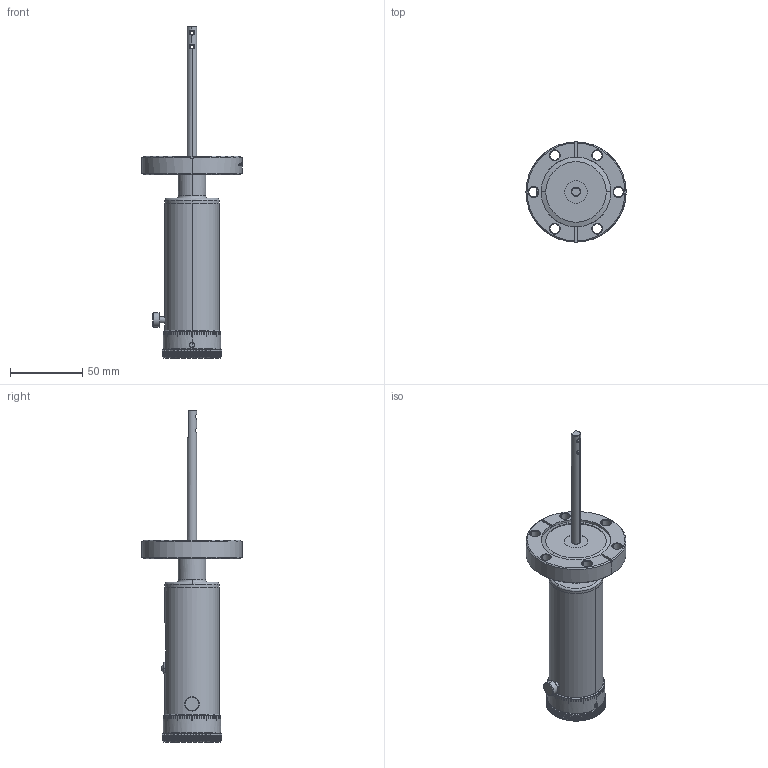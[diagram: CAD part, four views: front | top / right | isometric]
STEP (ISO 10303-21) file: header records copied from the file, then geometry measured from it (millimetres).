
FILE_DESCRIPTION (( 'STEP AP203' ), '1' );
FILE_NAME ('102220.stp', '2019-03-21T22:21:17', ( '' ), ( '' ), 'SwSTEP 2.0', 'SolidWorks 2012', '' );
FILE_SCHEMA (( 'CONFIG_CONTROL_DESIGN' ));
Products named in the file (1): 102220
Bounding box: 69.34 x 69.34 x 229.82 mm (x, y, z)
Volume: 174873.6 mm3; surface area: 30812.4 mm2
Topology: 1 solids, 1 shells, 1044 faces, 2988 edges, 1982 vertices
Faces by surface type: plane 515, cylinder 317, bspline 150, cone 62
Entity records: 63375 total; most frequent: CARTESIAN_POINT 37777, ORIENTED_EDGE 5976, DIRECTION 4507, EDGE_CURVE 2988, VERTEX_POINT 1982, AXIS2_PLACEMENT_3D 1676, LINE 1155, VECTOR 1155
